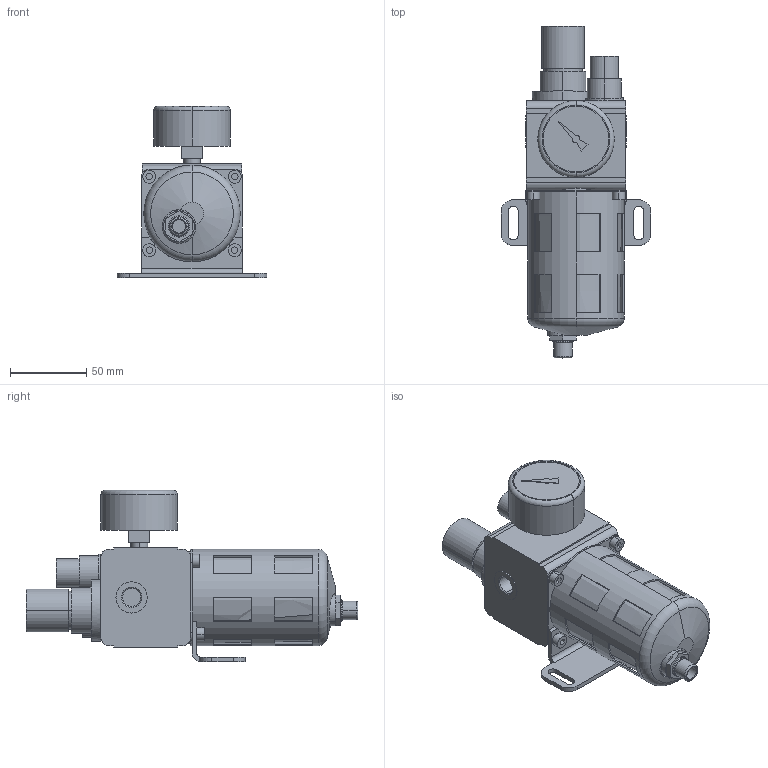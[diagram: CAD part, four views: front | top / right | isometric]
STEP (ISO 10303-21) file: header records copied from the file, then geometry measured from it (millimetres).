
FILE_DESCRIPTION((''),'2;1');
FILE_NAME('R412010828_ASM','2015-04-02T',('prr2cob'),('BRH-DR (BOSCH REXROTH AG)'),'PRO/ENGINEER BY PARAMETRIC TECHNOLOGY CORPORATION, 2011490','PRO/ENGINEER BY PARAMETRIC TECHNOLOGY CORPORATION, 2011490','');
FILE_SCHEMA(('AUTOMOTIVE_DESIGN_CC2 { 1 2 10303 214 -1 1 5 2 }'));
Length unit declared in the file: millimetre
Products named in the file (7): R412010828-A; R412010833; 1820507002; R412010828-E; R412010828-D; R412010828-F; R412010828_ASM
Assembly tree (9 placements, depth 2):
  R412010828_ASM
    R412010828-A
    R412010833
    1820507002
    R412010828-E
    R412010828-D
    R412010828-F  x4
Bounding box: 98 x 217 x 112 mm (x, y, z)
Volume: 431918.1 mm3; surface area: 144558.9 mm2
Topology: 9 solids, 10 shells, 441 faces, 1086 edges, 693 vertices
Faces by surface type: plane 235, cylinder 143, cone 47, torus 13, sphere 2, revolution 1
Entity records: 13465 total; most frequent: CARTESIAN_POINT 3438, DIRECTION 2151, ORIENTED_EDGE 1960, EDGE_CURVE 980, AXIS2_PLACEMENT_3D 809, VERTEX_POINT 627, VECTOR 532, LINE 532
